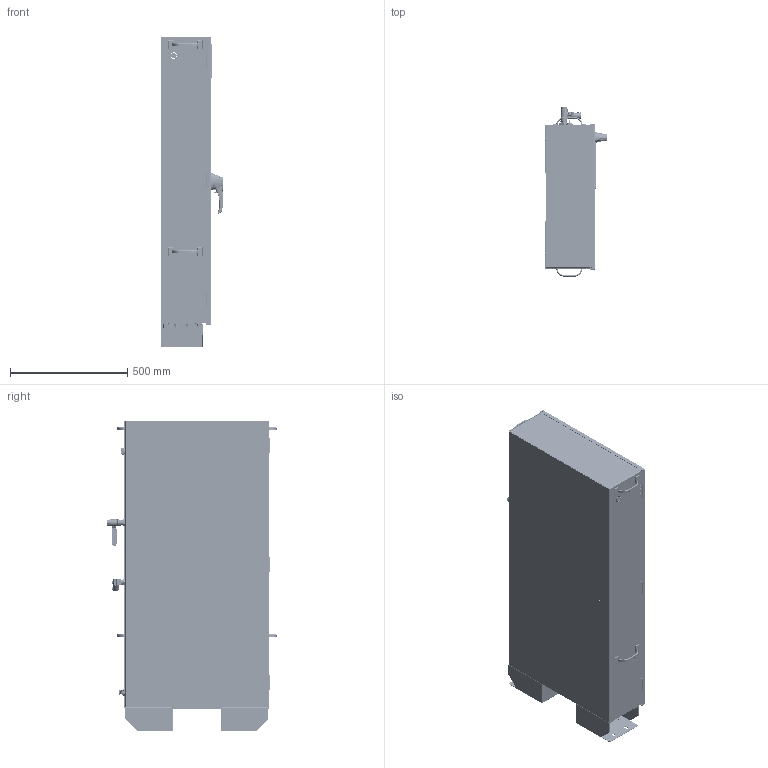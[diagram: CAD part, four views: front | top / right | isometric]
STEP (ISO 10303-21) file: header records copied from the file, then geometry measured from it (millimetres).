
FILE_DESCRIPTION(/* description */ (''),/* implementation_level */ '2;1');
FILE_NAME(/* name */ 'AG-11000.stp',/* time_stamp */ '2023-08-14T13:38:32-05:00',/* author */ ('atroll'),/* organization */ (''),/* preprocessor_version */ 'ST-DEVELOPER v19.2',/* originating_system */ 'Autodesk Inventor 2023',/* authorisation */ '');
FILE_SCHEMA (('AUTOMOTIVE_DESIGN { 1 0 10303 214 3 1 1 }'));
Products named in the file (1): AG-11000_Simplified
Bounding box: 266 x 721.55 x 1325.84 mm (x, y, z)
Volume: 7402740.7 mm3; surface area: 6962105.2 mm2
Topology: 10 solids, 71 shells, 6924 faces, 20552 edges, 13784 vertices
Faces by surface type: plane 3440, cylinder 1424, bspline 1213, cone 564, torus 190, sphere 93
Full cylindrical faces by diameter (mm): 0.5 x8, 1 x20, 2 x2, 2.286 x8, 2.54 x4, 2.8 x4, 3 x3, 3.175 x5, 3.3 x1, 3.302 x4, 3.5 x7, 3.683 x1, 3.7 x1, 3.8 x2, 4.1 x3, 4.318 x2, 4.826 x4, 5 x1, 5.105 x4, 5.156 x4, 6 x2, 6.096 x2, 6.35 x7, 6.553 x6, 6.6 x2, 7 x1, 7.057 x11, 7.137 x4, 7.2 x2, 7.785 x10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
Entity records: 328909 total; most frequent: CARTESIAN_POINT 145999, ORIENTED_EDGE 38265, DIRECTION 32496, EDGE_CURVE 20513, VERTEX_POINT 13784, LINE 12074, VECTOR 12074, AXIS2_PLACEMENT_3D 10211
